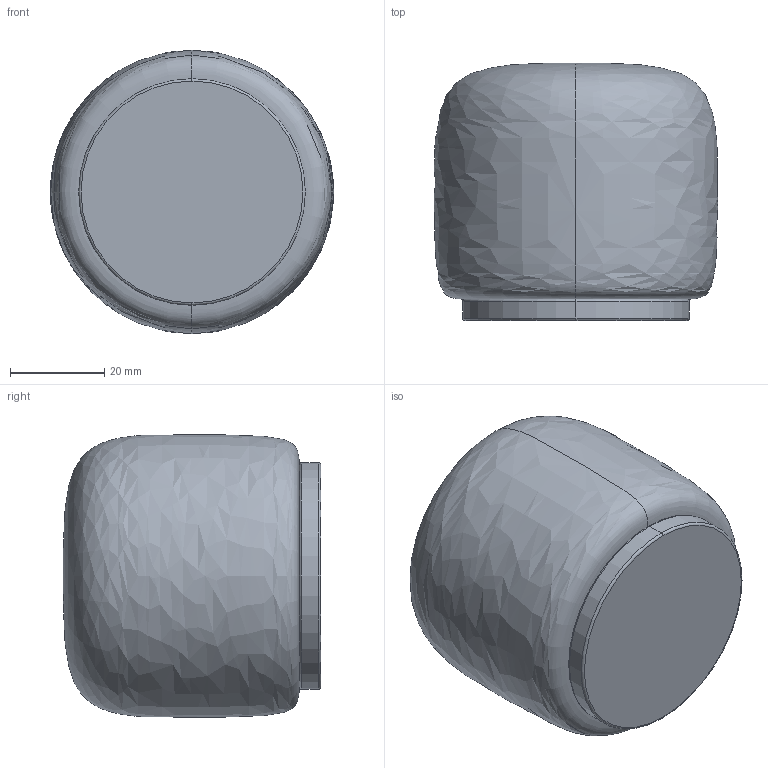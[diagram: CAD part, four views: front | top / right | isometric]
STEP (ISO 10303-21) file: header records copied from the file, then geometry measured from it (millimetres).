
FILE_DESCRIPTION((''),'2;1');
FILE_NAME('29000F9480000000_SW0001','2024-04-23T14:55:36',('matteo.follador'),(''),'CREO PARAMETRIC BY PTC INC, 2022424','CREO PARAMETRIC BY PTC INC, 2022424','');
FILE_SCHEMA(('AUTOMOTIVE_DESIGN { 1 0 10303 214 1 1 1 1 }'));
Length unit declared in the file: millimetre
Products named in the file (1): 29000F9480000000_SW0001
Bounding box: 59.99 x 54.5 x 59.97 mm (x, y, z)
Volume: 137871.7 mm3; surface area: 18125.2 mm2
Topology: 2 solids, 19 shells, 711 faces, 2021 edges, 1344 vertices
Faces by surface type: plane 701, torus 4, cylinder 4, revolution 2
Entity records: 27908 total; most frequent: CARTESIAN_POINT 4322, ORIENTED_EDGE 4034, DIRECTION 3476, EDGE_CURVE 2017, VECTOR 2001, LINE 2001, VERTEX_POINT 1344, EDGE_LOOP 739
